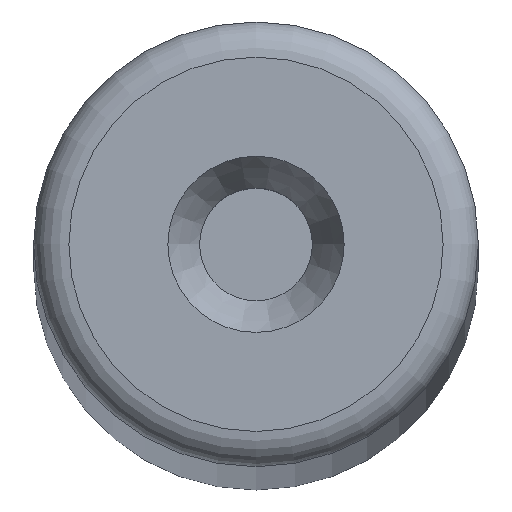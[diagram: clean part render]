
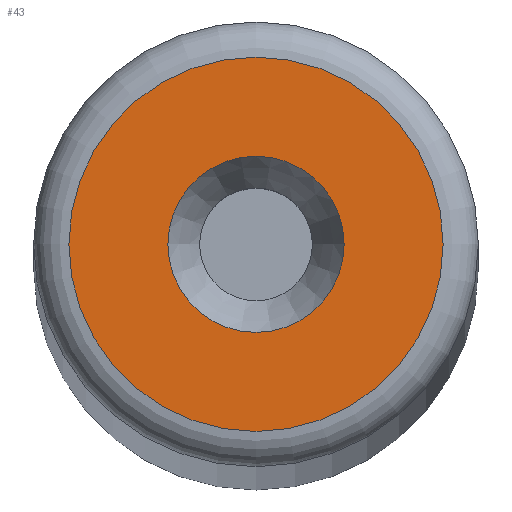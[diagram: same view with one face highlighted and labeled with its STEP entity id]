
A CAD part, top view. The second image highlights one B-rep face of the part: STEP entity #43.
In plain terms, the highlighted planar face has unit normal (0, 0, 1).
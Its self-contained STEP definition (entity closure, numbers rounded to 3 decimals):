
#43=ADVANCED_FACE('',(#58,#59),#54,.T.);
#54=PLANE('',#149);
#58=FACE_BOUND('',#76,.T.);
#59=FACE_BOUND('',#77,.T.);
#76=EDGE_LOOP('',(#96));
#77=EDGE_LOOP('',(#97));
#96=ORIENTED_EDGE('',*,*,#126,.T.);
#97=ORIENTED_EDGE('',*,*,#127,.F.);
#116=VERTEX_POINT('',#214);
#117=VERTEX_POINT('',#216);
#126=EDGE_CURVE('',#116,#116,#136,.T.);
#127=EDGE_CURVE('',#117,#117,#137,.T.);
#136=CIRCLE('',#147,2.655);
#137=CIRCLE('',#148,1.25);
#147=AXIS2_PLACEMENT_3D('',#213,#170,#171);
#148=AXIS2_PLACEMENT_3D('',#215,#172,#173);
#149=AXIS2_PLACEMENT_3D('',#217,#174,#175);
#170=DIRECTION('',(0.,0.,1.));
#171=DIRECTION('',(1.,0.,0.));
#172=DIRECTION('',(0.,0.,1.));
#173=DIRECTION('',(1.,0.,0.));
#174=DIRECTION('',(0.,0.,1.));
#175=DIRECTION('',(1.,0.,0.));
#213=CARTESIAN_POINT('',(0.,0.,190.));
#214=CARTESIAN_POINT('',(2.655,0.,190.));
#215=CARTESIAN_POINT('',(0.,0.,190.));
#216=CARTESIAN_POINT('',(1.25,0.,190.));
#217=CARTESIAN_POINT('',(0.,0.,190.));
